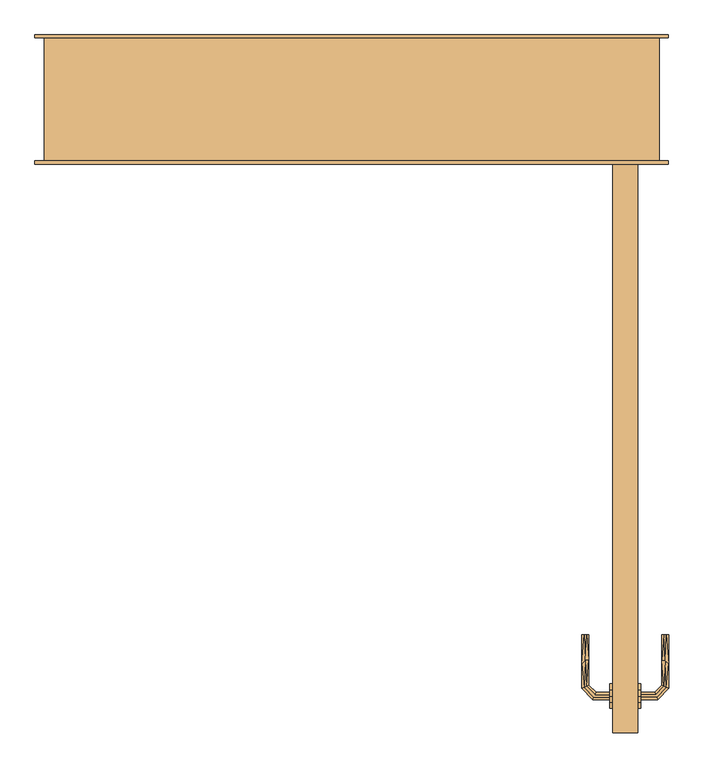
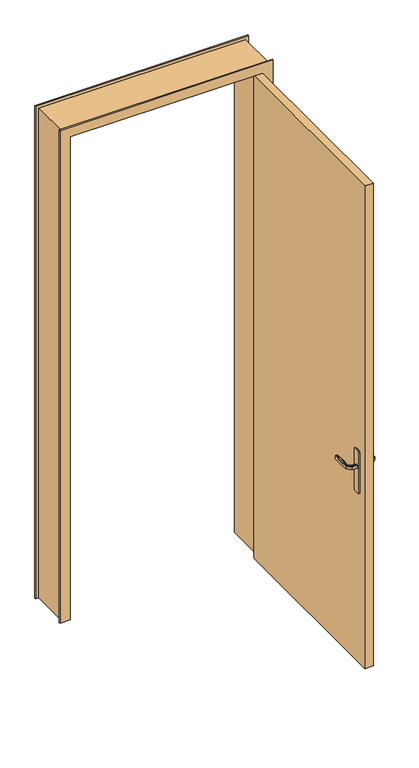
"""IFC4 building model written with IfcOpenShell, lengths in millimetres: door geometry, PP EXT - Local poubelle  (0.93m x 2.50m)."""

from ifc_helpers import new_model, si_unit, frame, origin, origin_with_axes, place, context, project, spatial, polyline, outline, extrude, faceted_brep, source, transform, mapped, element, save


def door_d0007442(model_context):
    return source(origin(), model_context, "Body", "SolidModel", [
        extrude(outline(polyline([(-859.6472382, 1083.9960169), (-850.0, 1080.0), (-850.0, 870.0), (-859.6472382, 866.0039831), (-870.0, 864.6410162), (-880.3527618, 866.0039831), (-890.0, 870.0), (-890.0, 1080.0), (-880.3527618, 1083.9960169), (-870.0, 1085.3589838), (-859.6472382, 1083.9960169)])), frame((920.0, 0.0, 0.0), z_axis=(1.0, 0.0, 0.0), x_axis=(0.0, 1.0, 0.0)), (0.0, 0.0, 1.0), 5.0),
        faceted_brep([(0.0, 200.0, 0.0), (-15.0, 200.0, 0.0), (-15.0, 205.0, 0.0), (50.0, 205.0, 0.0), (50.0, 40.0, 0.0), (35.0, 40.0, 0.0), (35.0, -5.0, 0.0), (-15.0, -5.0, 0.0), (-15.0, 0.0, 0.0), (0.0, 0.0, 0.0), (0.0, 200.0, 2500.0), (1000.0, 200.0, 2500.0), (1000.0, 200.0, 0.0), (1015.0, 200.0, 0.0), (1015.0, 200.0, 2515.0), (-15.0, 200.0, 2515.0), (-15.0, 205.0, 2515.0), (1015.0, 205.0, 2515.0), (1015.0, 205.0, 0.0), (950.0, 205.0, 0.0), (950.0, 205.0, 2450.0), (50.0, 205.0, 2450.0), (50.0, 40.0, 2450.0), (950.0, 40.0, 2450.0), (950.0, 40.0, 0.0), (965.0, 40.0, 0.0), (965.0, 40.0, 2465.0), (35.0, 40.0, 2465.0), (35.0, -5.0, 2465.0), (965.0, -5.0, 2465.0), (965.0, -5.0, 0.0), (1015.0, -5.0, 0.0), (1015.0, -5.0, 2515.0), (-15.0, -5.0, 2515.0), (-15.0, 0.0, 2515.0), (1015.0, 0.0, 2515.0), (1015.0, 0.0, 0.0), (1000.0, 0.0, 0.0), (1000.0, 0.0, 2500.0), (0.0, 0.0, 2500.0)], [[[0, 1, 2, 3, 4, 5, 6, 7, 8, 9]], [[1, 0, 10, 11, 12, 13, 14, 15]], [[2, 1, 15, 16]], [[3, 2, 16, 17, 18, 19, 20, 21]], [[3, 21, 22, 4]], [[5, 4, 22, 23, 24, 25, 26, 27]], [[5, 27, 28, 6]], [[7, 6, 28, 29, 30, 31, 32, 33]], [[8, 7, 33, 34]], [[9, 8, 34, 35, 36, 37, 38, 39]], [[0, 9, 39, 10]], [[11, 38, 37, 12]], [[12, 37, 36, 31, 30, 25, 24, 19, 18, 13]], [[17, 14, 13, 18]], [[23, 20, 19, 24]], [[29, 26, 25, 30]], [[35, 32, 31, 36]], [[16, 15, 14, 17]], [[22, 21, 20, 23]], [[28, 27, 26, 29]], [[34, 33, 32, 35]], [[10, 39, 38, 11]]]),
        extrude(outline(polyline([(-859.6472382, 1083.9960169), (-850.0, 1080.0), (-850.0, 870.0), (-859.6472382, 866.0039831), (-870.0, 864.6410162), (-880.3527618, 866.0039831), (-890.0, 870.0), (-890.0, 1080.0), (-880.3527618, 1083.9960169), (-870.0, 1085.3589838), (-859.6472382, 1083.9960169)])), frame((965.0, 0.0, 0.0), z_axis=(1.0, 0.0, 0.0), x_axis=(0.0, 1.0, 0.0)), (0.0, 0.0, 1.0), 5.0),
        faceted_brep([(920.0, -872.0252987, 1007.7804408), (920.0, -876.0, 1007.0), (920.0, -876.0, 993.0), (920.0, -872.0252987, 992.2195592), (920.0, -867.9747013, 992.2195592), (920.0, -864.0, 993.0), (920.0, -864.0, 1007.0), (920.0, -867.9747013, 1007.7804408), (897.5147955, -864.0, 993.0), (897.5147955, -864.0, 1007.0), (895.8684203, -867.9747013, 1007.7804408), (882.0548128, -854.1610938, 1007.7804408), (878.0042155, -855.8389062, 1007.7804408), (894.1906079, -872.0252987, 1007.7804408), (892.5442327, -876.0, 1007.0), (892.5442327, -876.0, 993.0), (894.1906079, -872.0252987, 992.2195592), (878.0042155, -855.8389062, 992.2195592), (882.0548128, -854.1610938, 992.2195592), (895.8684203, -867.9747013, 992.2195592), (886.0295141, -852.5147186, 993.0), (886.0295141, -852.5147186, 1007.0), (874.0295141, -857.4852814, 1007.0), (874.0295141, -857.4852814, 993.0), (886.0295141, -769.9542163, 993.0), (882.0548128, -769.9542163, 992.2195592), (878.0042155, -769.9542163, 992.2195592), (874.0295141, -769.9542163, 993.0), (874.0295141, -769.9542163, 1007.0), (878.0042155, -769.9542163, 1007.7804408), (882.0548128, -769.9542163, 1007.7804408), (886.0295141, -769.9542163, 1007.0), (886.0295141, -811.2344794, 993.0), (886.0295141, -811.2344675, 1007.0), (880.0295141, -812.0576551, 1007.8786868), (874.0295141, -817.5547942, 1007.0), (874.0295141, -817.5547957, 993.0), (880.0295142, -812.0576549, 992.1213132)], [[[0, 1, 2, 3, 4, 5, 6, 7]], [[6, 5, 8, 9]], [[9, 10, 7, 6]], [[10, 11, 12, 13, 0, 7]], [[13, 14, 1, 0]], [[2, 1, 14, 15]], [[15, 16, 3, 2]], [[16, 17, 18, 19, 4, 3]], [[19, 8, 5, 4]], [[9, 8, 20, 21]], [[21, 11, 10, 9]], [[12, 22, 14, 13]], [[15, 14, 22, 23]], [[23, 17, 16, 15]], [[18, 20, 8, 19]], [[24, 25, 26, 27, 28, 29, 30, 31]], [[21, 20, 32, 24, 31, 33]], [[33, 30, 34]], [[35, 34, 29]], [[21, 33, 11]], [[33, 31, 30]], [[28, 35, 29]], [[22, 12, 35]], [[35, 12, 34]], [[12, 11, 34]], [[11, 33, 34]], [[29, 34, 30]], [[22, 35, 28, 27, 36, 23]], [[36, 26, 37]], [[27, 26, 36]], [[17, 23, 36]], [[37, 32, 18]], [[20, 18, 32]], [[32, 25, 24]], [[26, 25, 37]], [[25, 32, 37]], [[17, 36, 37]], [[17, 37, 18]]]),
        extrude(outline(polyline([(925.0, -930.0), (925.0, 0.0), (965.0, 0.0), (965.0, -930.0), (925.0, -930.0)])), origin_with_axes(), (0.0, 0.0, 1.0), 2465.0),
        faceted_brep([(970.0, -872.0252987, 1007.7804408), (970.0, -867.9747013, 1007.7804408), (970.0, -864.0, 1007.0), (970.0, -864.0, 993.0), (970.0, -867.9747013, 992.2195592), (970.0, -872.0252987, 992.2195592), (970.0, -876.0, 993.0), (970.0, -876.0, 1007.0), (997.6509507, -876.0, 1007.0), (996.0045755, -872.0252987, 1007.7804408), (1012.0534593, -855.9764148, 1007.7804408), (1008.002862, -854.2986025, 1007.7804408), (994.3267632, -867.9747013, 1007.7804408), (992.680388, -864.0, 1007.0), (992.680388, -864.0, 993.0), (994.3267632, -867.9747013, 992.2195592), (1008.002862, -854.2986025, 992.2195592), (1012.0534593, -855.9764148, 992.2195592), (996.0045755, -872.0252987, 992.2195592), (997.6509507, -876.0, 993.0), (1016.0281607, -857.62279, 1007.0), (1004.0281607, -852.6522273, 1007.0), (1004.0281607, -852.6522273, 993.0), (1016.0281607, -857.62279, 993.0), (1016.0281607, -769.9813594, 993.0), (1012.0534593, -769.9813594, 992.2195592), (1008.002862, -769.9813594, 992.2195592), (1004.0281607, -769.9813594, 993.0), (1004.0281607, -769.9813594, 1007.0), (1008.002862, -769.9813594, 1007.7804408), (1012.0534593, -769.9813594, 1007.7804408), (1016.0281607, -769.9813594, 1007.0), (1016.0281607, -817.6923028, 1007.0), (1010.0281607, -812.1399809, 1007.8786868), (1004.0281607, -811.3167933, 1007.0), (1004.0281607, -811.3167933, 993.0), (1010.0281608, -812.1399811, 992.1213132), (1016.0281607, -817.6922998, 993.0)], [[[0, 1, 2, 3, 4, 5, 6, 7]], [[8, 9, 0, 7]], [[9, 10, 11, 12, 1, 0]], [[12, 13, 2, 1]], [[3, 2, 13, 14]], [[14, 15, 4, 3]], [[15, 16, 17, 18, 5, 4]], [[18, 19, 6, 5]], [[7, 6, 19, 8]], [[20, 10, 9, 8]], [[11, 21, 13, 12]], [[14, 13, 21, 22]], [[22, 16, 15, 14]], [[17, 23, 19, 18]], [[8, 19, 23, 20]], [[24, 25, 26, 27, 28, 29, 30, 31]], [[32, 30, 33]], [[31, 30, 32]], [[10, 20, 32]], [[33, 34, 11]], [[21, 11, 34]], [[34, 29, 28]], [[30, 29, 33]], [[29, 34, 33]], [[10, 32, 33]], [[10, 33, 11]], [[22, 21, 34, 28, 27, 35]], [[35, 26, 36]], [[37, 36, 25]], [[22, 35, 16]], [[35, 27, 26]], [[24, 37, 25]], [[23, 17, 37]], [[37, 17, 36]], [[17, 16, 36]], [[16, 35, 36]], [[25, 36, 26]], [[20, 23, 37, 24, 31, 32]]]),
    ])


if __name__ == "__main__":
    model = new_model("IFC4")
    model_context = context("Model", 3, world=origin())
    ifc_project = project(units=[si_unit("LENGTHUNIT", "METRE", prefix="MILLI")], contexts=[model_context])
    site = spatial("IfcSite", under=ifc_project)
    building = spatial("IfcBuilding", under=site)
    placement = place(None, origin())
    door_shape = door_d0007442(model_context)
    element("IfcDoor", 1, ObjectType="PP EXT - Local poubelle  (0.93m x 2.50m)", at=placement, inside=building, context=model_context, shape_type="MappedRepresentation", body=[
        mapped(door_shape, transform((0.0, 0.0, 0.0), x_axis=(1.0, 0.0, 0.0), y_axis=(0.0, 1.0, 0.0), z_axis=(0.0, 0.0, 1.0))),
    ])
    save(model, "model.ifc")
